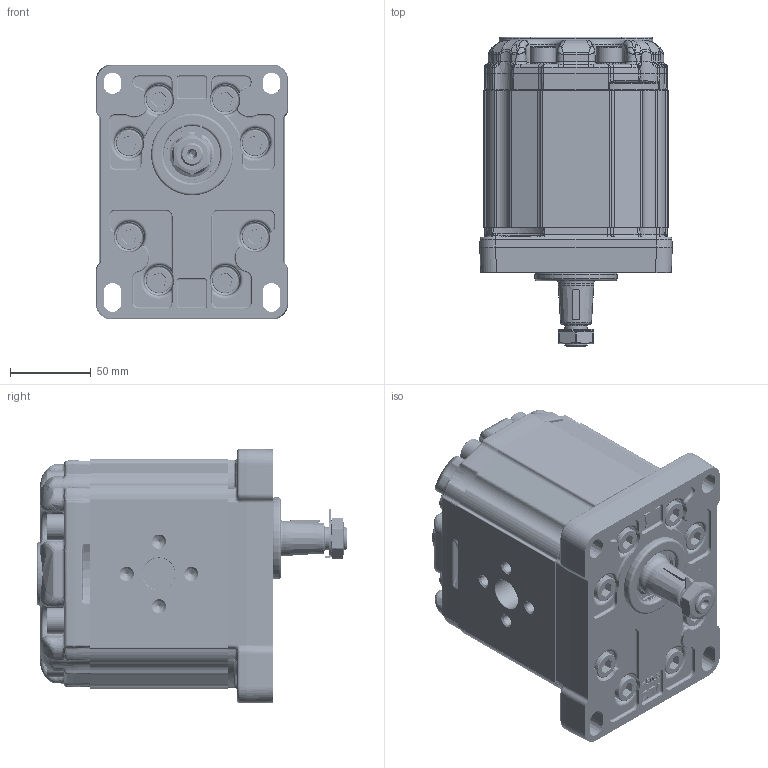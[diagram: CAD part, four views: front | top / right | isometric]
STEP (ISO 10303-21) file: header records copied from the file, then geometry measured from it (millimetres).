
FILE_DESCRIPTION(/* description */ ('Unknown'),/* implementation_level */ '2;1');
FILE_NAME(/* name */ 'X3P7801ABAA',/* time_stamp */ '2023-09-08T14:32:53+02:00',/* author */ ('Unknown'),/* organization */ ('Unknown'),/* preprocessor_version */ 'ST-DEVELOPER v16.7',/* originating_system */ 'Solid Edge',/* authorisation */ 'Unknown');
FILE_SCHEMA (('AUTOMOTIVE_DESIGN {1 0 10303 214 3 1 1}'));
Products named in the file (5): X3P7801ABAA; X3P01; 3A; X3BAH85; XP301-A
Assembly tree (4 placements, depth 2):
  X3P7801ABAA
    X3P01
    3A
    X3BAH85
    XP301-A
Bounding box: 119.2 x 192 x 157.8 mm (x, y, z)
Volume: 2077925.4 mm3; surface area: 223922.2 mm2
Topology: 4 solids, 5 shells, 4597 faces, 14078 edges, 8799 vertices
Faces by surface type: cylinder 1842, plane 1394, bspline 997, torus 200, cone 151, sphere 13
Full cylindrical faces by diameter (mm): 2 x2, 6.8 x4, 8.376 x4, 10 x16, 10.35 x30, 10.5 x1, 14 x2, 15.8 x16, 16 x16, 20 x1, 22 x1, 24.98 x1, 25 x2, 25.968 x1, 27 x1, 28.16 x1, 31 x1, 31.293 x1, 32.742 x1, 34.956 x1, 35 x1, 35.2 x1, 37 x1, 50.8 x1
Entity records: 310919 total; most frequent: CARTESIAN_POINT 163809, ORIENTED_EDGE 27172, DIRECTION 20433, EDGE_CURVE 13586, VERTEX_POINT 8656, AXIS2_PLACEMENT_3D 7787, FACE_BOUND 5074, EDGE_LOOP 5064
